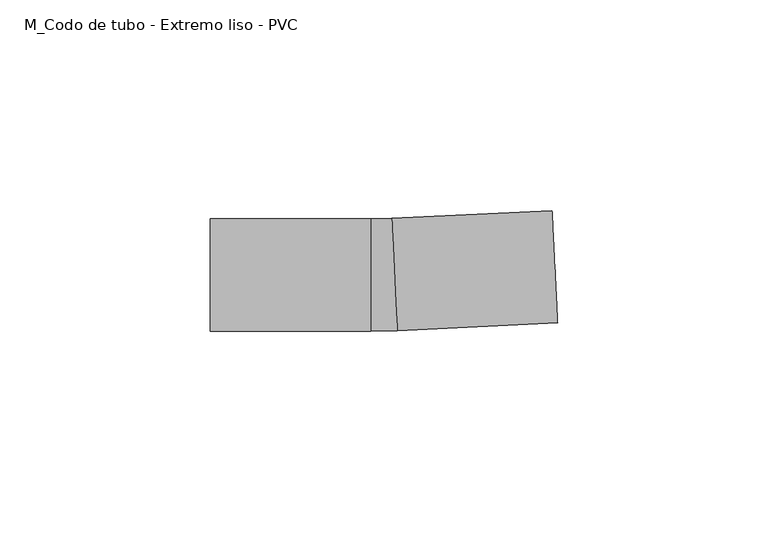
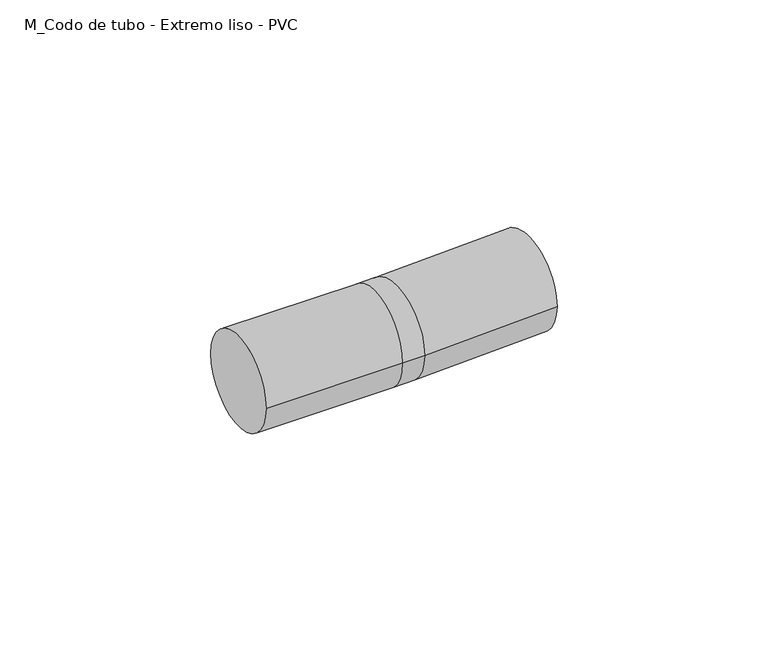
"""IFC4 building model written with IfcOpenShell, lengths in millimetres: cable carrier fitting geometry, M_Codo de tubo - Extremo liso - PVC : CODO ILUMINACION."""

from ifc_helpers import new_model, si_unit, point, frame, origin, place, context, project, spatial, circle_curve, ellipse_curve, trimmed, source, transform, mapped, element, save
from ifc_brep_helpers import plane_surface, cylinder_surface, revolved_surface, advanced_brep


def m_codo_de_tubo_extremo_liso_pvc_664ab9d5(model_context):
    return source(origin(), model_context, "Body", "AdvancedBrep", [
        advanced_brep(
        [(-40.9090438, -13.335, 0.0), (-40.9090438, 13.335, 0.0), (-2.8090438, -13.335, 0.0), (-2.8090438, 13.335, 0.0), (2.1506047, 13.4568886, 0.0), (3.4607006, -13.1809144, 0.0), (41.5147049, -11.3093489, 0.0), (40.204609, 15.3284541, 0.0)],
        [
            (0, 1, circle_curve(frame((-40.9090438, 0.0, 0.0), z_axis=(-1.0, 0.0, 0.0), x_axis=(0.0, 1.0, 0.0)), 13.335)),
            (1, 0, circle_curve(frame((-40.9090438, 0.0, 0.0), z_axis=(-1.0, 0.0, 0.0), x_axis=(0.0, 1.0, 0.0)), 13.335)),
            (0, 2),
            (2, 3, circle_curve(frame((-2.8090438, 0.0, 0.0), z_axis=(-1.0, 0.0, 0.0), x_axis=(0.0, 1.0, 0.0)), 13.335)),
            (3, 1),
            (3, 2, circle_curve(frame((-2.8090438, 0.0, 0.0), z_axis=(-1.0, 0.0, 0.0), x_axis=(0.0, 1.0, 0.0)), 13.335)),
            (4, 3, circle_curve(frame((-2.8090438, 114.3, 0.0), z_axis=(0.0, 0.0, -1.0), x_axis=(0.0, -1.0, 0.0)), 100.965)),
            (2, 5, circle_curve(frame((-2.8090438, 114.3, 0.0), z_axis=(0.0, 0.0, 1.0), x_axis=(0.0, -1.0, 0.0)), 127.635)),
            (5, 4, circle_curve(frame((2.8056527, 0.1379871, 0.0), z_axis=(-0.9987927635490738, -0.049122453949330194, 0.0), x_axis=(-0.049122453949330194, 0.9987927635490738, 0.0)), 13.335)),
            (4, 5, circle_curve(frame((2.8056527, 0.1379871, 0.0), z_axis=(-0.9987927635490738, -0.04912245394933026, 0.0), x_axis=(-0.04912245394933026, 0.9987927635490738, 0.0)), 13.335)),
            (6, 7, circle_curve(frame((40.8596569, 2.0095526, 0.0), z_axis=(0.9987927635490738, 0.04912245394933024, 0.0), x_axis=(-0.04912245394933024, 0.9987927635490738, 0.0)), 13.335)),
            (7, 6, circle_curve(frame((40.8596569, 2.0095526, 0.0), z_axis=(0.9987927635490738, 0.04912245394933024, 0.0), x_axis=(-0.04912245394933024, 0.9987927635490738, 0.0)), 13.335)),
            (5, 6),
            (7, 4),
        ],
        [
            plane_surface(frame((-40.9090438, 0.0, 0.0), z_axis=(-1.0, 0.0, 0.0), x_axis=(0.0, 0.0, 1.0))),
            cylinder_surface(frame((-40.9090438, 0.0, 0.0), z_axis=(-1.0, 0.0, 0.0), x_axis=(0.0, 1.0, 0.0)), 13.335),
            revolved_surface(trimmed(ellipse_curve(frame((-2.8090438, 0.0, 0.0), z_axis=(-1.0, 0.0, 0.0), x_axis=(0.0, 1.0, 0.0)), 13.335, 13.335), [point((-2.8090438, -13.335, 0.0))], [point((-2.8090438, 13.335, 0.0))], True, "CARTESIAN"), (-2.8090438, 114.3, 0.0), (0.0, 0.0, 1.0)),
            revolved_surface(trimmed(ellipse_curve(frame((-2.8090438, 0.0, 0.0), z_axis=(-1.0, 0.0, 0.0), x_axis=(0.0, 1.0, 0.0)), 13.335, 13.335), [point((-2.8090438, 13.335, 0.0))], [point((-2.8090438, -13.335, 0.0))], True, "CARTESIAN"), (-2.8090438, 114.3, 0.0), (0.0, 0.0, 1.0)),
            plane_surface(frame((40.8596569, 2.0095526, 0.0), z_axis=(0.9987927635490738, 0.04912245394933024, 0.0), x_axis=(0.0, 0.0, 1.0))),
            cylinder_surface(frame((2.8056527, 0.1379871, 0.0), z_axis=(-0.9987927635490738, -0.04912245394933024, 0.0), x_axis=(-0.04912245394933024, 0.9987927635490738, 0.0)), 13.335),
        ],
        [
            (0, [[1, 2]]),
            (1, [[-1, 3, 4, 5]]),
            (1, [[-2, -5, 6, -3]]),
            (2, [[7, -4, 8, 9]]),
            (3, [[-8, -6, -7, 10]]),
            (4, [[11, 12]]),
            (5, [[-9, 13, -12, 14]]),
            (5, [[-10, -14, -11, -13]]),
        ],
    ),
    ])


if __name__ == "__main__":
    model = new_model("IFC4")
    model_context = context("Model", 3, world=origin())
    ifc_project = project(units=[si_unit("LENGTHUNIT", "METRE", prefix="MILLI")], contexts=[model_context])
    site = spatial("IfcSite", under=ifc_project)
    building = spatial("IfcBuilding", under=site)
    placement = place(None, origin())
    m_codo_de_tubo_extremo_liso_pvc_shape = m_codo_de_tubo_extremo_liso_pvc_664ab9d5(model_context)
    element("IfcCableCarrierFitting", 1, ObjectType="M_Codo de tubo - Extremo liso - PVC : CODO ILUMINACION", at=placement, inside=building, context=model_context, shape_type="MappedRepresentation", body=[
        mapped(m_codo_de_tubo_extremo_liso_pvc_shape, transform((0.0, 0.0, 0.0), x_axis=(1.0, 0.0, 0.0), y_axis=(0.0, 1.0, 0.0), z_axis=(0.0, 0.0, 1.0))),
    ])
    save(model, "model.ifc")
